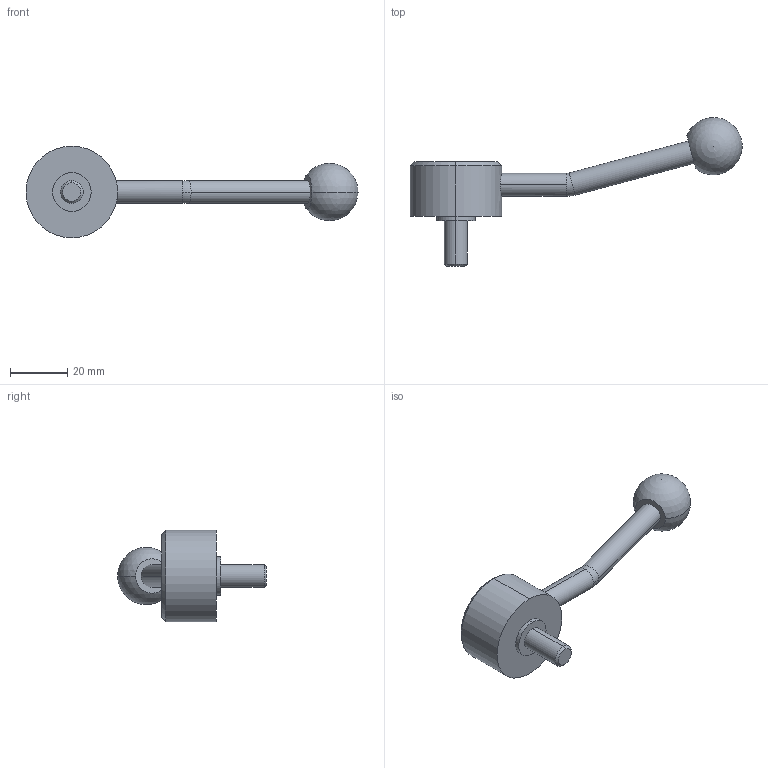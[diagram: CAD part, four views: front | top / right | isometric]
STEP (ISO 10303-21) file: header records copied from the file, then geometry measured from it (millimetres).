
FILE_DESCRIPTION (( 'STEP AP214' ), '1' );
FILE_NAME ('125.5-32-M8-16-E.step', '2020-02-18T11:26:18', ( '' ), ( '' ), 'SwSTEP 2.0', 'SolidWorks 2019', '' );
FILE_SCHEMA (( 'AUTOMOTIVE_DESIGN' ));
Length unit declared in the file: millimetre
Products named in the file (1): 125.5-32-M8-16-E
Bounding box: 115.96 x 52 x 32 mm (x, y, z)
Volume: 23743.2 mm3; surface area: 6743.8 mm2
Topology: 1 solids, 1 shells, 26 faces, 57 edges, 36 vertices
Faces by surface type: cylinder 12, plane 6, cone 4, torus 2, sphere 2
Entity records: 852 total; most frequent: CARTESIAN_POINT 178, DIRECTION 138, ORIENTED_EDGE 104, AXIS2_PLACEMENT_3D 61, EDGE_CURVE 52, CIRCLE 34, VERTEX_POINT 33, EDGE_LOOP 31
